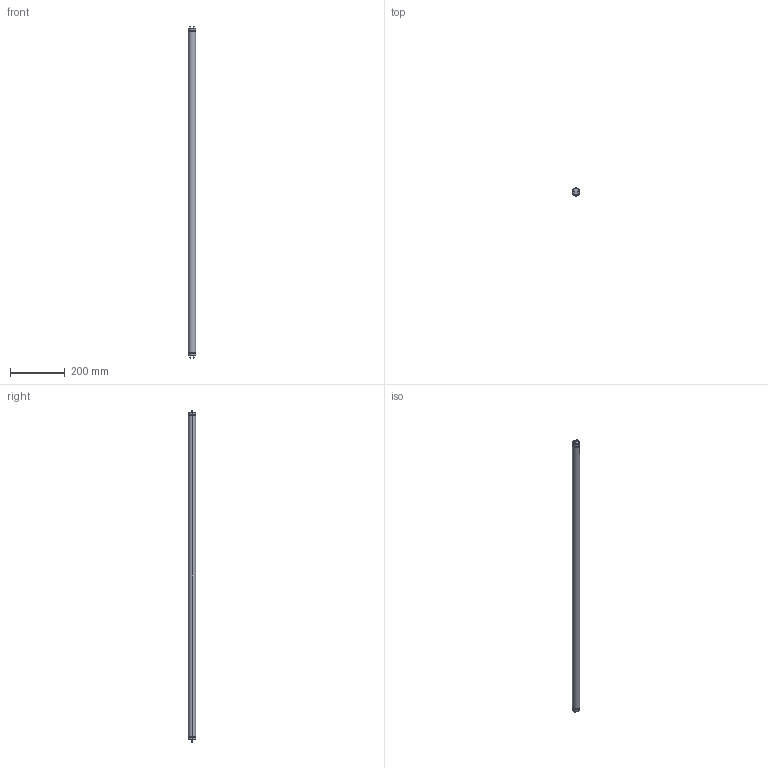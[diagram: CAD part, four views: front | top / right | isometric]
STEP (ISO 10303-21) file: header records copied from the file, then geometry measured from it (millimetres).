
FILE_DESCRIPTION (( 'STEP AP203' ), '1' );
FILE_NAME ('LEDT8-28W-V1 STEP.STEP', '2015-03-04T23:47:50', ( '' ), ( '' ), 'SwSTEP 2.0', 'SolidWorks 2015', '' );
FILE_SCHEMA (( 'CONFIG_CONTROL_DESIGN' ));
Length unit declared in the file: inch
Products named in the file (1): LEDT8-28W-V1 STEP
Bounding box: 28.19 x 28.19 x 1212.21 mm (x, y, z)
Volume: 637984.6 mm3; surface area: 99590.3 mm2
Topology: 1 solids, 1 shells, 52 faces, 102 edges, 64 vertices
Faces by surface type: cylinder 26, plane 14, cone 8, torus 4
Entity records: 1437 total; most frequent: DIRECTION 276, CARTESIAN_POINT 219, ORIENTED_EDGE 204, AXIS2_PLACEMENT_3D 121, EDGE_CURVE 102, CIRCLE 68, EDGE_LOOP 64, VERTEX_POINT 64
